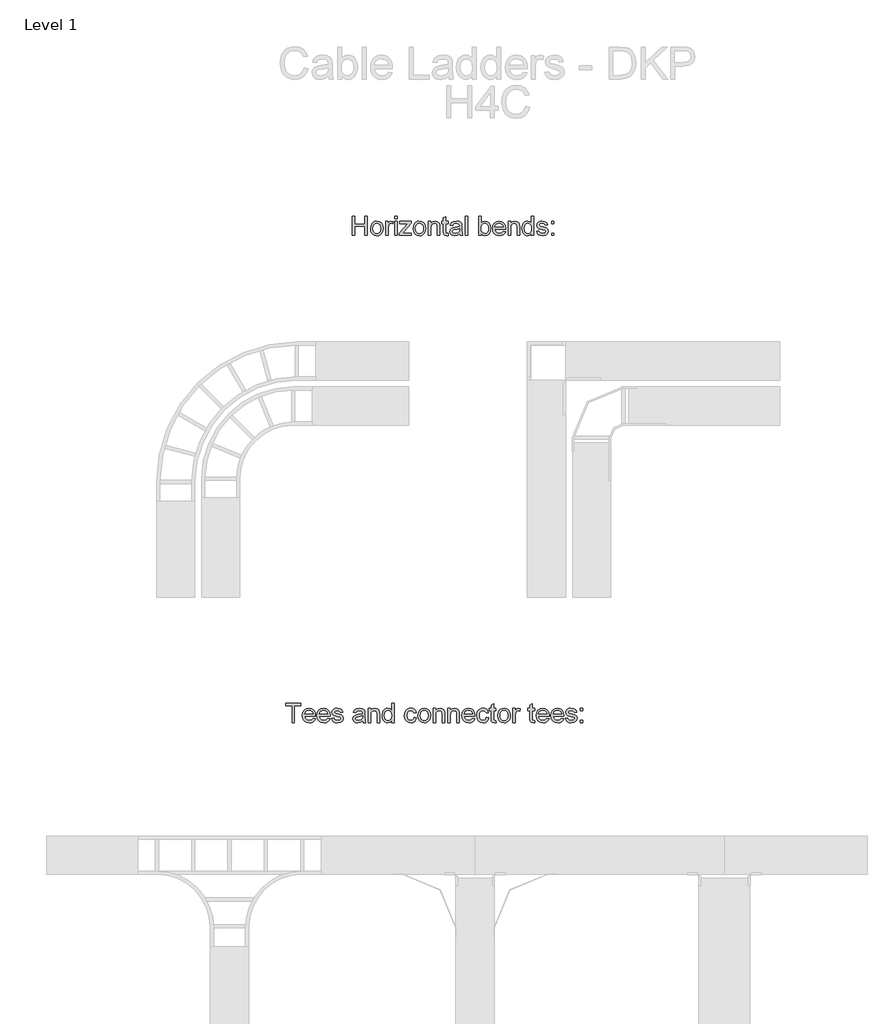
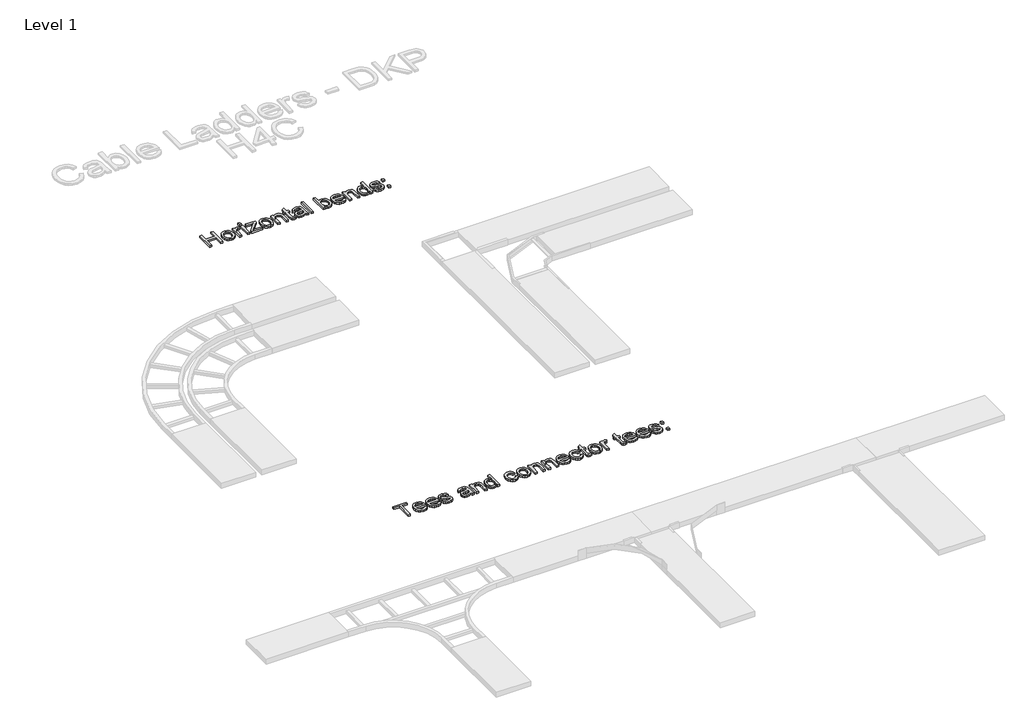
# One storey, part 84 of 106: 2 proxies.
"""IFC4 building model written with IfcOpenShell, lengths in millimetres."""

import ifcopenshell
import ifcopenshell.guid

model = None  # the IFC model being written
_history = None  # IfcOwnerHistory: only IFC2X3 demands one
_inside = {}  # id of a spatial element -> (the spatial element, [elements in it])
_under = {}  # id of a project, library or spatial element -> (it, [spatial elements below it])
_declared = {}  # id of a project -> (the project, [libraries it declares])
_typed = {}  # id of a type object -> (the type object, [elements of that type])
_made_of = {}  # id of a material, layer set ... -> (it, [elements and type objects made of it])


def new_model(schema):
    """Start an empty IFC model of exactly this schema.

    Asked for "IFC4X3", IfcOpenShell would pick the latest addendum, in which some entities
    have other attributes; the version numbers below select the first issue.
    IFC2X3 requires an IfcOwnerHistory on every rooted entity: one is made here for all.
    """
    global model, _history
    if schema == "IFC4X3":
        model = ifcopenshell.file(schema_version=(4, 3, 0, 0))
    else:
        model = ifcopenshell.file(schema=schema)
    _inside.clear()
    _under.clear()
    _declared.clear()
    _typed.clear()
    _made_of.clear()
    _history = None
    if model.schema == "IFC2X3":
        org = make("IfcOrganization", Name="unknown")
        user = make(
            "IfcPersonAndOrganization",
            ThePerson=make("IfcPerson", FamilyName="unknown"),
            TheOrganization=org,
        )
        app = make(
            "IfcApplication",
            ApplicationDeveloper=org,
            Version="unknown",
            ApplicationFullName="unknown",
            ApplicationIdentifier="unknown",
        )
        _history = make(
            "IfcOwnerHistory",
            OwningUser=user,
            OwningApplication=app,
            ChangeAction="ADDED",
            CreationDate=0,
        )
    return model


def make(cls, **values):
    """One entity of the class cls with the attributes given. An attribute that is None is left unset."""
    return model.create_entity(
        cls, **{name: value for name, value in values.items() if value is not None}
    )


def rooted(cls, **values):
    """An entity with a GlobalId (a new one), such as an element, a storey or a relation."""
    return make(cls, GlobalId=ifcopenshell.guid.new(), OwnerHistory=_history, **values)


def si_unit(unit_type, name, prefix=None):
    """IfcSIUnit, for example si_unit("LENGTHUNIT", "METRE", prefix="MILLI")."""
    return make("IfcSIUnit", UnitType=unit_type, Prefix=prefix, Name=name)


def assignment(units):
    """IfcUnitAssignment: the units of a project."""
    return None if units is None else make("IfcUnitAssignment", Units=units)


def point(xyz):
    """IfcCartesianPoint."""
    return None if xyz is None else make("IfcCartesianPoint", Coordinates=xyz)


def direction(xyz):
    """IfcDirection."""
    return None if xyz is None else make("IfcDirection", DirectionRatios=xyz)


def frame(location, z_axis=None, x_axis=None):
    """IfcAxis2Placement3D, a coordinate frame: its origin and axes. An axis left out is left unset."""
    return make(
        "IfcAxis2Placement3D",
        Location=point(location),
        Axis=direction(z_axis),
        RefDirection=direction(x_axis),
    )


def origin():
    """The frame at (0, 0, 0) with its axes left unset."""
    return frame((0.0, 0.0, 0.0))


def origin_with_axes():
    """The frame at (0, 0, 0) with the z axis (0, 0, 1) and the x axis (1, 0, 0) written out."""
    return frame((0.0, 0.0, 0.0), z_axis=(0.0, 0.0, 1.0), x_axis=(1.0, 0.0, 0.0))


def place(relative_to, where):
    """IfcLocalPlacement: puts the frame where relative to a parent placement (None: the world)."""
    return make(
        "IfcLocalPlacement", PlacementRelTo=relative_to, RelativePlacement=where
    )


def context(
    kind, dimensions, precision=None, world=None, true_north=None, identifier=None
):
    """IfcGeometricRepresentationContext, for example the 3D "Model" context."""
    return make(
        "IfcGeometricRepresentationContext",
        ContextIdentifier=identifier,
        ContextType=kind,
        CoordinateSpaceDimension=dimensions,
        Precision=precision,
        WorldCoordinateSystem=world,
        TrueNorth=true_north,
    )


def project(units=None, contexts=None):
    """IfcProject with its units and contexts."""
    return rooted(
        "IfcProject",
        Name="project",
        RepresentationContexts=contexts,
        UnitsInContext=assignment(units),
    )


def spatial(cls, under=None, at=None, **own):
    """A site, building, storey or space (cls), placed at a placement, below another one or the project."""
    s = rooted(cls, ObjectPlacement=at, **own)
    if under is not None:
        _under.setdefault(under.id(), (under, []))[1].append(s)
    return s


def polyline(points):
    """IfcPolyline through the points."""
    return make("IfcPolyline", Points=[point(p) for p in points])


def outline(outer, holes=None, kind="AREA"):
    """IfcArbitraryClosedProfileDef: a profile drawn as a closed curve; with holes, ...WithVoids."""
    if holes is None:
        return make("IfcArbitraryClosedProfileDef", ProfileType=kind, OuterCurve=outer)
    return make(
        "IfcArbitraryProfileDefWithVoids",
        ProfileType=kind,
        OuterCurve=outer,
        InnerCurves=holes,
    )


def extrude(swept, where, along, depth):
    """IfcExtrudedAreaSolid: the profile swept, set in the frame where, extruded along a direction by depth."""
    return make(
        "IfcExtrudedAreaSolid",
        SweptArea=swept,
        Position=where,
        ExtrudedDirection=direction(along),
        Depth=depth,
    )


def shape(context_of_items, identifier, shape_type, items):
    """IfcShapeRepresentation: the items that make up one representation, for example the "Body"."""
    return make(
        "IfcShapeRepresentation",
        ContextOfItems=context_of_items,
        RepresentationIdentifier=identifier,
        RepresentationType=shape_type,
        Items=items,
    )


def made_of(thing, what):
    """Note that an element or type object is made of a material, layer set ...; save() writes the relation."""
    if what is not None:
        _made_of.setdefault(what.id(), (what, []))[1].append(thing)
    return thing


def element(
    cls,
    number,
    at=None,
    inside=None,
    cuts=None,
    type_object=None,
    material=None,
    context=None,
    identifier="Body",
    shape_type=None,
    held_by="IfcProductDefinitionShape",
    body=None,
    shapes=None,
    **own,
):
    """One element of the class cls, such as IfcWall. Its Tag is "e" and its number.

    at: its placement. inside: the storey or other place that contains it. cuts: it is an
    opening in that element (IfcRelVoidsElement). A single representation is given by context,
    identifier, shape_type and body (its items); several are given by shapes. held_by: the class
    of the entity that holds the representations. save() writes the other relations.
    """
    e = rooted(cls, Tag="e%d" % number, ObjectPlacement=at, **own)
    if body is not None:
        shapes = [shape(context, identifier, shape_type, body)]
    if shapes is not None:
        e.Representation = make(held_by, Representations=shapes)
    if inside is not None:
        _inside.setdefault(inside.id(), (inside, []))[1].append(e)
    if cuts is not None:
        rooted(
            "IfcRelVoidsElement", RelatingBuildingElement=cuts, RelatedOpeningElement=e
        )
    if type_object is not None:
        _typed.setdefault(type_object.id(), (type_object, []))[1].append(e)
    return made_of(e, material)


def aggregate(whole, parts):
    """IfcRelAggregates: a whole, such as a stair, and the parts it consists of."""
    return rooted("IfcRelAggregates", RelatingObject=whole, RelatedObjects=parts)


def save(model, path):
    """Write the relations noted so far, then the file.

    IfcRelAggregates (storeys below a building ...), IfcRelContainedInSpatialStructure (elements
    in a storey), IfcRelDefinesByType, IfcRelAssociatesMaterial and IfcRelDeclares: one each for
    every whole, place, type object, material and project.
    """
    for whole, parts in _under.values():
        aggregate(whole, parts)
    for where, things in _inside.values():
        rooted(
            "IfcRelContainedInSpatialStructure",
            RelatedElements=things,
            RelatingStructure=where,
        )
    for kind, things in _typed.values():
        rooted("IfcRelDefinesByType", RelatedObjects=things, RelatingType=kind)
    for what, things in _made_of.values():
        rooted("IfcRelAssociatesMaterial", RelatedObjects=things, RelatingMaterial=what)
    for by, libraries in _declared.values():
        rooted("IfcRelDeclares", RelatingContext=by, RelatedDefinitions=libraries)
    model.write(path)


model = new_model("IFC4")

# Units and contexts
model_context = context("Model", 3, world=origin())
ifc_project = project(units=[si_unit("LENGTHUNIT", "METRE", prefix="MILLI")], contexts=[model_context])

# Site, building, storey
site = spatial("IfcSite", under=ifc_project)
building = spatial("IfcBuilding", under=site)
storey = spatial("IfcBuildingStorey", under=building, Name="Level 1", Elevation=0.0)

# Proxies
placement = place(None, origin())
element("IfcBuildingElementProxy", 1, Name="150mm Arial 2", ObjectType="150mm Arial 2", at=placement, inside=storey, context=model_context, shape_type="SweptSolid", body=[
    extrude(outline(polyline([(55165.8833156, 70274.2713912), (55165.8833156, 70424.9558564), (55184.7188737, 70424.9558564), (55184.7188737, 70363.7402924), (55264.7699959, 70363.7402924), (55264.7699959, 70424.9558564), (55283.605554, 70424.9558564), (55283.605554, 70274.2713912), (55264.7699959, 70274.2713912), (55264.7699959, 70344.9047343), (55184.7188737, 70344.9047343), (55184.7188737, 70274.2713912), (55165.8833156, 70274.2713912)])), origin_with_axes(), (0.0, 0.0, 1.0), 15.0),
    extrude(outline(polyline([(55309.5044465, 70329.6008433), (55313.5787396, 70356.281485), (55325.8016189, 70375.0342697), (55340.9031748, 70384.2221225), (55358.9845748, 70387.2847401), (55378.7720277, 70383.5553364), (55394.5771579, 70372.3671252), (55404.9376346, 70354.6030234), (55408.3911268, 70331.1459476), (55406.8644165, 70312.1172514), (55402.2842857, 70297.6318979), (55394.7840915, 70286.7839775), (55384.4971912, 70278.667581), (55372.2789104, 70273.6046051), (55358.9845748, 70271.9169464), (55338.9579987, 70275.6325546), (55323.1712626, 70286.779379), (55312.9211505, 70304.9159614), (55309.5044465, 70329.6008433)]), holes=[polyline([(55328.3400046, 70329.6376315), (55330.5197055, 70312.5908995), (55337.0588079, 70300.4461951), (55346.8996513, 70293.1759272), (55358.9845748, 70290.7525046), (55371.0143161, 70293.1897228), (55380.8367654, 70300.5013774), (55387.3758678, 70312.8070302), (55389.5555686, 70330.2262427), (55387.3620722, 70346.7763339), (55380.7815831, 70358.7554914), (55370.9453382, 70366.0257593), (55358.9845748, 70368.449182), (55346.8996513, 70366.0349564), (55337.0588079, 70358.7922796), (55330.5197055, 70346.6751664), (55328.3400046, 70329.6376315)])]), origin_with_axes(), (0.0, 0.0, 1.0), 15.0),
    extrude(outline(polyline([(55429.5811297, 70274.2713912), (55429.5811297, 70384.9302953), (55446.0622431, 70384.9302953), (55446.0622431, 70368.5595466), (55457.7608906, 70383.6427084), (55469.5331144, 70387.2847401), (55488.4422489, 70381.4722046), (55482.1514668, 70364.586421), (55468.907715, 70368.449182), (55458.2575312, 70364.7335738), (55451.4701084, 70354.4328779), (55448.4166879, 70332.4335346), (55448.4166879, 70274.2713912), (55429.5811297, 70274.2713912)])), origin_with_axes(), (0.0, 0.0, 1.0), 15.0),
    extrude(outline(polyline([(55500.2144728, 70406.1202983), (55500.2144728, 70424.9558564), (55519.0500309, 70424.9558564), (55519.0500309, 70406.1202983), (55500.2144728, 70406.1202983)])), origin_with_axes(), (0.0, 0.0, 1.0), 15.0),
    extrude(outline(polyline([(55500.2144728, 70274.2713912), (55500.2144728, 70384.9302953), (55519.0500309, 70384.9302953), (55519.0500309, 70274.2713912), (55500.2144728, 70274.2713912)])), origin_with_axes(), (0.0, 0.0, 1.0), 15.0),
    extrude(outline(polyline([(55535.5311443, 70274.2713912), (55535.5311443, 70292.0033034), (55600.5358929, 70366.0947372), (55581.2956645, 70366.0947372), (55540.2400339, 70366.0947372), (55540.2400339, 70384.9302953), (55627.3544903, 70384.9302953), (55627.3544903, 70368.9274285), (55569.7073817, 70303.186916), (55560.8782138, 70293.1069493), (55582.6568279, 70293.1069493), (55629.7089351, 70293.1069493), (55629.7089351, 70274.2713912), (55535.5311443, 70274.2713912)])), origin_with_axes(), (0.0, 0.0, 1.0), 15.0),
    extrude(outline(polyline([(55643.8356037, 70329.6008433), (55647.9098968, 70356.281485), (55660.1327761, 70375.0342697), (55675.234332, 70384.2221225), (55693.3157321, 70387.2847401), (55713.1031849, 70383.5553364), (55728.9083151, 70372.3671252), (55739.2687918, 70354.6030234), (55742.722284, 70331.1459476), (55741.1955737, 70312.1172514), (55736.6154429, 70297.6318979), (55729.1152487, 70286.7839775), (55718.8283484, 70278.667581), (55706.6100677, 70273.6046051), (55693.3157321, 70271.9169464), (55673.2891559, 70275.6325546), (55657.5024198, 70286.779379), (55647.2523077, 70304.9159614), (55643.8356037, 70329.6008433)]), holes=[polyline([(55662.6711619, 70329.6376315), (55664.8508627, 70312.5908995), (55671.3899651, 70300.4461951), (55681.2308085, 70293.1759272), (55693.3157321, 70290.7525046), (55705.3454733, 70293.1897228), (55715.1679226, 70300.5013774), (55721.707025, 70312.8070302), (55723.8867259, 70330.2262427), (55721.6932295, 70346.7763339), (55715.1127403, 70358.7554914), (55705.2764954, 70366.0257593), (55693.3157321, 70368.449182), (55681.2308085, 70366.0349564), (55671.3899651, 70358.7922796), (55664.8508627, 70346.6751664), (55662.6711619, 70329.6376315)])]), origin_with_axes(), (0.0, 0.0, 1.0), 15.0),
    extrude(outline(polyline([(55763.9122869, 70274.2713912), (55763.9122869, 70384.9302953), (55782.7478451, 70384.9302953), (55782.7478451, 70369.4792515), (55797.1504252, 70382.833368), (55816.8137178, 70387.2847401), (55834.6008123, 70383.6978907), (55846.7409182, 70374.2801116), (55852.3879068, 70360.4293545), (55853.3811882, 70342.2191957), (55853.3811882, 70274.2713912), (55834.54563, 70274.2713912), (55834.54563, 70339.6808099), (55832.3751262, 70356.3458643), (55824.7047866, 70365.1566381), (55811.7737345, 70368.449182), (55800.7418732, 70366.6005749), (55791.3378897, 70361.0547538), (55784.8953562, 70350.3401907), (55782.7478451, 70332.9853576), (55782.7478451, 70274.2713912), (55763.9122869, 70274.2713912)])), origin_with_axes(), (0.0, 0.0, 1.0), 15.0),
    extrude(outline(polyline([(55919.3056417, 70289.9799524), (55921.6600865, 70273.7195682), (55907.5702061, 70271.9169464), (55891.7880685, 70275.0439434), (55883.9153938, 70283.2477119), (55881.6345254, 70304.6216558), (55881.6345254, 70366.0947372), (55867.5078568, 70366.0947372), (55867.5078568, 70384.9302953), (55881.6345254, 70384.9302953), (55881.6345254, 70411.8224692), (55900.4700835, 70422.8957172), (55900.4700835, 70384.9302953), (55919.3056417, 70384.9302953), (55919.3056417, 70366.0947372), (55900.4700835, 70366.0947372), (55900.4700835, 70305.1734788), (55901.4633649, 70295.4613941), (55904.6823324, 70292.0216975), (55911.1018732, 70290.7525046), (55919.3056417, 70289.9799524)])), origin_with_axes(), (0.0, 0.0, 1.0), 15.0),
    extrude(outline(polyline([(56008.7745429, 70288.3980598), (55990.5092019, 70275.6325546), (55970.3308744, 70271.9169464), (55954.5901236, 70274.1518295), (55942.9788481, 70280.8564789), (55935.8189448, 70291.0376131), (55933.4323103, 70303.7019508), (55937.0375539, 70318.6011716), (55946.5105152, 70329.4169023), (55959.6990848, 70335.5973198), (55975.9962572, 70338.4300111), (56008.6641783, 70344.9047343), (56008.7745429, 70349.098589), (56007.4777589, 70357.5046926), (56003.5874068, 70363.0045284), (55994.8869976, 70367.0880186), (55982.7652859, 70368.449182), (55963.7089985, 70364.8255443), (55954.6223132, 70351.9680686), (55935.7867551, 70354.3225133), (55943.9353413, 70372.7166131), (55960.3428783, 70383.4955556), (55985.193307, 70387.2847401), (56008.0203848, 70383.9370139), (56020.9146488, 70375.5309104), (56026.6903961, 70362.747011), (56027.6101011, 70346.2658976), (56027.6101011, 70322.8318145), (56028.5665943, 70290.1087111), (56032.3189906, 70274.2713912), (56013.4834325, 70274.2713912), (56008.7745429, 70288.3980598)]), holes=[polyline([(56008.7745429, 70326.0691761), (55978.3874901, 70320.2934288), (55962.1822882, 70317.2400082), (55954.8430424, 70312.2736013), (55952.2678685, 70305.026326), (55957.8780689, 70294.8359947), (55974.3407882, 70290.7525046), (55993.3970755, 70295.259059), (56005.6843342, 70306.1667602), (56008.6641783, 70320.7348872), (56008.7745429, 70326.0691761)])]), origin_with_axes(), (0.0, 0.0, 1.0), 15.0),
    extrude(outline(polyline([(56053.5089935, 70274.2713912), (56053.5089935, 70424.9558564), (56072.3445517, 70424.9558564), (56072.3445517, 70274.2713912), (56053.5089935, 70274.2713912)])), origin_with_axes(), (0.0, 0.0, 1.0), 15.0),
    extrude(outline(polyline([(56178.2945663, 70274.2713912), (56159.4590082, 70274.2713912), (56159.4590082, 70424.9558564), (56178.2945663, 70424.9558564), (56178.2945663, 70369.0745813), (56191.4831358, 70382.7322004), (56207.8722787, 70387.2847401), (56226.7446251, 70383.1828559), (56241.3863285, 70371.6497553), (56250.3810433, 70353.715508), (56253.6367989, 70331.2563122), (56250.2660801, 70306.1115779), (56240.1539238, 70287.4047784), (56225.3144838, 70275.7889044), (56207.7619141, 70271.9169464), (56191.0140863, 70276.9109445), (56178.2945663, 70291.8929388), (56178.2945663, 70274.2713912)]), holes=[polyline([(56178.2945663, 70330.3733955), (56179.5821533, 70314.6648343), (56183.4449142, 70304.0330446), (56193.3133488, 70294.0726396), (56206.1432333, 70290.7525046), (56217.0141463, 70293.1989198), (56226.3031667, 70300.5381656), (56232.6767222, 70312.7242567), (56234.8012408, 70329.7112079), (56232.7640942, 70346.9464793), (56226.6526546, 70358.9946147), (56217.6533413, 70366.0855401), (56206.9525737, 70368.449182), (56196.0816608, 70366.0027667), (56186.7926404, 70358.6635209), (56180.4190848, 70346.698159), (56178.2945663, 70330.3733955)])]), origin_with_axes(), (0.0, 0.0, 1.0), 15.0),
    extrude(outline(polyline([(56352.30275, 70307.233618), (56370.7704262, 70304.8791732), (56364.1163606, 70290.9640367), (56353.4983665, 70280.5621733), (56339.1555672, 70274.0782531), (56321.327086, 70271.9169464), (56299.2265752, 70275.6463501), (56282.2212299, 70286.8345613), (56271.3779081, 70304.755013), (56267.7634675, 70328.6811383), (56271.4146963, 70353.4120054), (56282.3683827, 70371.9072727), (56299.1438017, 70383.4403733), (56320.2602282, 70387.2847401), (56340.7190657, 70383.4495703), (56357.0668219, 70371.9440609), (56367.7859835, 70353.4855818), (56371.3590374, 70328.7915029), (56371.2486728, 70323.7147313), (56286.5990257, 70323.7147313), (56289.8593799, 70309.6156539), (56297.4331504, 70299.2505787), (56308.3638442, 70292.8770231), (56321.694968, 70290.7525046), (56340.1626442, 70294.6888419), (56352.30275, 70307.233618)]), holes=[polyline([(56286.5990257, 70342.5502895), (56352.5234792, 70342.5502895), (56349.9758964, 70352.5014975), (56344.9818983, 70359.6200141), (56334.0006208, 70366.24189), (56320.1866518, 70368.449182), (56307.4901245, 70366.6879469), (56296.991692, 70361.4042417), (56289.693833, 70353.1682836), (56286.5990257, 70342.5502895)])]), origin_with_axes(), (0.0, 0.0, 1.0), 15.0),
    extrude(outline(polyline([(56390.1945955, 70274.2713912), (56390.1945955, 70384.9302953), (56409.0301537, 70384.9302953), (56409.0301537, 70369.4792515), (56423.4327338, 70382.833368), (56443.0960264, 70387.2847401), (56460.8831209, 70383.6978907), (56473.0232267, 70374.2801116), (56478.6702154, 70360.4293545), (56479.6634968, 70342.2191957), (56479.6634968, 70274.2713912), (56460.8279386, 70274.2713912), (56460.8279386, 70339.6808099), (56458.6574348, 70356.3458643), (56450.9870952, 70365.1566381), (56438.0560431, 70368.449182), (56427.0241818, 70366.6005749), (56417.6201983, 70361.0547538), (56411.1776648, 70350.3401907), (56409.0301537, 70332.9853576), (56409.0301537, 70274.2713912), (56390.1945955, 70274.2713912)])), origin_with_axes(), (0.0, 0.0, 1.0), 15.0),
    extrude(outline(polyline([(56573.8412875, 70274.2713912), (56573.8412875, 70292.0400916), (56561.3792849, 70276.9477327), (56544.1532105, 70271.9169464), (56531.9763165, 70273.7379623), (56520.829492, 70279.2010099), (56511.3933188, 70287.9244117), (56504.3483786, 70299.5264902), (56499.9613858, 70313.5381956), (56498.4990549, 70329.4904787), (56503.8885261, 70359.4728613), (56510.6207666, 70371.3646468), (56520.0385457, 70380.1110412), (56531.429092, 70385.4913154), (56544.0796341, 70387.2847401), (56561.4436643, 70382.1527863), (56573.8412875, 70368.8170639), (56573.8412875, 70424.9558564), (56592.6768457, 70424.9558564), (56592.6768457, 70274.2713912), (56573.8412875, 70274.2713912)]), holes=[polyline([(56517.3346131, 70329.5640551), (56519.4591316, 70312.5265202), (56525.8326871, 70300.4094069), (56535.0941164, 70293.1667302), (56545.8822559, 70290.7525046), (56556.6657969, 70293.0563656), (56565.6927013, 70299.9679485), (56571.804141, 70311.6160122), (56573.8412875, 70328.1293153), (56571.7673528, 70346.1831242), (56565.5455485, 70358.7003091), (56556.2887178, 70366.0119637), (56545.1097037, 70368.449182), (56534.2111996, 70366.1085328), (56525.2808642, 70359.0865852), (56519.3211758, 70347.0246543), (56517.3346131, 70329.5640551)])]), origin_with_axes(), (0.0, 0.0, 1.0), 15.0),
    extrude(outline(polyline([(56613.8668486, 70307.233618), (56632.7024067, 70309.5880627), (56635.6730539, 70301.531447), (56641.42121, 70295.6085469), (56661.3972024, 70290.7525046), (56680.6006425, 70295.2038767), (56686.8546364, 70305.6517254), (56685.2819409, 70310.4525854), (56680.5638543, 70314.1130113), (56661.1764732, 70319.4840884), (56632.8127713, 70328.6995324), (56620.4335422, 70339.4600807), (56616.2212934, 70354.6536071), (56619.6058077, 70368.6883052), (56628.8396458, 70379.4120654), (56640.8142047, 70384.9854776), (56657.0194066, 70387.2847401), (56679.9384549, 70383.5875261), (56694.5065819, 70373.5811358), (56700.9813051, 70356.6769581), (56682.1457469, 70354.3225133), (56675.0640185, 70364.7151797), (56658.4909346, 70368.449182), (56640.4647168, 70364.8807266), (56635.0568515, 70356.5665935), (56637.3009317, 70351.0851518), (56644.3274778, 70346.9280852), (56660.5510738, 70342.9181715), (56688.1974057, 70334.0522154), (56701.0364873, 70324.0090369), (56705.6901946, 70307.6382881), (56700.227147, 70289.6120704), (56684.4634035, 70276.5338655), (56661.139685, 70271.9169464), (56642.147777, 70274.1426325), (56628.2878228, 70280.8196907), (56619.0355906, 70291.8745447), (56613.8668486, 70307.233618)])), origin_with_axes(), (0.0, 0.0, 1.0), 15.0),
    extrude(outline(polyline([(56731.589087, 70366.0947372), (56731.589087, 70384.9302953), (56750.4246452, 70384.9302953), (56750.4246452, 70366.0947372), (56731.589087, 70366.0947372)])), origin_with_axes(), (0.0, 0.0, 1.0), 15.0),
    extrude(outline(polyline([(56731.589087, 70274.2713912), (56731.589087, 70293.1069493), (56750.4246452, 70293.1069493), (56750.4246452, 70274.2713912), (56731.589087, 70274.2713912)])), origin_with_axes(), (0.0, 0.0, 1.0), 15.0),
])
element("IfcBuildingElementProxy", 2, Name="150mm Arial 2", ObjectType="150mm Arial 2", at=placement, inside=storey, context=model_context, shape_type="SweptSolid", body=[
    extrude(outline(polyline([(54693.3276619, 66447.8476348), (54693.3276619, 66579.6965419), (54643.8843218, 66579.6965419), (54643.8843218, 66598.5321), (54761.6065602, 66598.5321), (54761.6065602, 66579.6965419), (54712.1632201, 66579.6965419), (54712.1632201, 66447.8476348), (54693.3276619, 66447.8476348)])), origin_with_axes(), (0.0, 0.0, 1.0), 15.0),
    extrude(outline(polyline([(54857.9180666, 66480.8098615), (54876.3857427, 66478.4554168), (54869.7316771, 66464.5402803), (54859.1136831, 66454.1384169), (54844.7708838, 66447.6544967), (54826.9424026, 66445.49319), (54804.8418917, 66449.2225937), (54787.8365465, 66460.4108049), (54776.9932247, 66478.3312566), (54773.3787841, 66502.2573819), (54777.0300129, 66526.988249), (54787.9836993, 66545.4835163), (54804.7591183, 66557.0166168), (54825.8755448, 66560.8609837), (54846.3343822, 66557.0258139), (54862.6821384, 66545.5203045), (54873.4013, 66527.0618254), (54876.9743539, 66502.3677465), (54876.8639893, 66497.2909749), (54792.2143422, 66497.2909749), (54795.4746964, 66483.1918975), (54803.048467, 66472.8268223), (54813.9791608, 66466.4532667), (54827.3102846, 66464.3287482), (54845.7779607, 66468.2650855), (54857.9180666, 66480.8098615)]), holes=[polyline([(54792.2143422, 66516.1265331), (54858.1387958, 66516.1265331), (54855.5912129, 66526.0777411), (54850.5972149, 66533.1962577), (54839.6159373, 66539.8181336), (54825.8019684, 66542.0254255), (54813.105441, 66540.2641905), (54802.6070086, 66534.9804853), (54795.3091495, 66526.7445272), (54792.2143422, 66516.1265331)])]), origin_with_axes(), (0.0, 0.0, 1.0), 15.0),
    extrude(outline(polyline([(54973.2858603, 66480.8098615), (54991.7535364, 66478.4554168), (54985.0994708, 66464.5402803), (54974.4814767, 66454.1384169), (54960.1386775, 66447.6544967), (54942.3101963, 66445.49319), (54920.2096854, 66449.2225937), (54903.2043402, 66460.4108049), (54892.3610184, 66478.3312566), (54888.7465778, 66502.2573819), (54892.3978066, 66526.988249), (54903.351493, 66545.4835163), (54920.126912, 66557.0166168), (54941.2433385, 66560.8609837), (54961.7021759, 66557.0258139), (54978.0499321, 66545.5203045), (54988.7690937, 66527.0618254), (54992.3421476, 66502.3677465), (54992.231783, 66497.2909749), (54907.5821359, 66497.2909749), (54910.8424901, 66483.1918975), (54918.4162607, 66472.8268223), (54929.3469545, 66466.4532667), (54942.6780783, 66464.3287482), (54961.1457544, 66468.2650855), (54973.2858603, 66480.8098615)]), holes=[polyline([(54907.5821359, 66516.1265331), (54973.5065895, 66516.1265331), (54970.9590066, 66526.0777411), (54965.9650086, 66533.1962577), (54954.983731, 66539.8181336), (54941.1697621, 66542.0254255), (54928.4732347, 66540.2641905), (54917.9748023, 66534.9804853), (54910.6769432, 66526.7445272), (54907.5821359, 66516.1265331)])]), origin_with_axes(), (0.0, 0.0, 1.0), 15.0),
    extrude(outline(polyline([(55004.1143715, 66480.8098615), (55022.9499296, 66483.1643063), (55025.9205767, 66475.1076906), (55031.6687329, 66469.1847905), (55051.6447252, 66464.3287482), (55070.8481654, 66468.7801203), (55077.1021593, 66479.227969), (55075.5294638, 66484.028829), (55070.8113772, 66487.6892549), (55051.423996, 66493.060332), (55023.0602942, 66502.275776), (55010.6810651, 66513.0363243), (55006.4688162, 66528.2298507), (55009.8533306, 66542.2645488), (55019.0871687, 66552.988309), (55031.0617276, 66558.5617212), (55047.2669295, 66560.8609837), (55070.1859778, 66557.1637696), (55084.7541048, 66547.1573794), (55091.2288279, 66530.2532017), (55072.3932698, 66527.8987569), (55065.3115413, 66538.2914233), (55048.7384575, 66542.0254255), (55030.7122397, 66538.4569702), (55025.3043744, 66530.1428371), (55027.5484545, 66524.6613954), (55034.5750007, 66520.5043288), (55050.7985966, 66516.4944151), (55078.4449286, 66507.628459), (55091.2840102, 66497.5852805), (55095.9377174, 66481.2145317), (55090.4746698, 66463.188314), (55074.7109263, 66450.1101091), (55051.3872078, 66445.49319), (55032.3952998, 66447.7188761), (55018.5353457, 66454.3959343), (55009.2831135, 66465.4507882), (55004.1143715, 66480.8098615)])), origin_with_axes(), (0.0, 0.0, 1.0), 15.0),
    extrude(outline(polyline([(55246.6221827, 66461.9743034), (55228.3568416, 66449.2087982), (55208.1785142, 66445.49319), (55192.4377633, 66447.7280731), (55180.8264878, 66454.4327225), (55173.6665845, 66464.6138567), (55171.2799501, 66477.2781944), (55174.8851936, 66492.1774152), (55184.358155, 66502.9931459), (55197.5467245, 66509.1735634), (55213.8438969, 66512.0062547), (55246.5118181, 66518.4809779), (55246.6221827, 66522.6748326), (55245.3253986, 66531.0809362), (55241.4350465, 66536.580772), (55232.7346374, 66540.6642622), (55220.6129256, 66542.0254255), (55201.5566383, 66538.4017879), (55192.469953, 66525.5443122), (55173.6343948, 66527.8987569), (55181.782981, 66546.2928567), (55198.190518, 66557.0717991), (55223.0409468, 66560.8609837), (55245.8680246, 66557.5132575), (55258.7622885, 66549.107154), (55264.5380358, 66536.3232546), (55265.4577408, 66519.8421412), (55265.4577408, 66496.4080581), (55266.414234, 66463.6849547), (55270.1666304, 66447.8476348), (55251.3310722, 66447.8476348), (55246.6221827, 66461.9743034)]), holes=[polyline([(55246.6221827, 66499.6454197), (55216.2351299, 66493.8696724), (55200.029928, 66490.8162518), (55192.6906822, 66485.8498449), (55190.1155082, 66478.6025696), (55195.7257086, 66468.4122383), (55212.1884279, 66464.3287482), (55231.2447153, 66468.8353026), (55243.5319739, 66479.7430038), (55246.5118181, 66494.3111308), (55246.6221827, 66499.6454197)])]), origin_with_axes(), (0.0, 0.0, 1.0), 15.0),
    extrude(outline(polyline([(55291.3566333, 66447.8476348), (55291.3566333, 66558.5065389), (55310.1921914, 66558.5065389), (55310.1921914, 66543.0554951), (55324.5947715, 66556.4096116), (55344.2580642, 66560.8609837), (55362.0451587, 66557.2741342), (55374.1852645, 66547.8563552), (55379.8322531, 66534.0055981), (55380.8255345, 66515.7954393), (55380.8255345, 66447.8476348), (55361.9899764, 66447.8476348), (55361.9899764, 66513.2570535), (55359.8194726, 66529.9221079), (55352.149133, 66538.7328817), (55339.2180809, 66542.0254255), (55328.1862195, 66540.1768185), (55318.782236, 66534.6309974), (55312.3397026, 66523.9164343), (55310.1921914, 66506.5616012), (55310.1921914, 66447.8476348), (55291.3566333, 66447.8476348)])), origin_with_axes(), (0.0, 0.0, 1.0), 15.0),
    extrude(outline(polyline([(55475.0033253, 66447.8476348), (55475.0033253, 66465.6163351), (55462.5413227, 66450.5239763), (55445.3152483, 66445.49319), (55433.1383542, 66447.3142059), (55421.9915298, 66452.7772535), (55412.5553566, 66461.5006553), (55405.5104164, 66473.1027337), (55401.1234236, 66487.1144392), (55399.6610927, 66503.0667223), (55405.0505639, 66533.0491049), (55411.7828044, 66544.9408904), (55421.2005835, 66553.6872848), (55432.5911298, 66559.067559), (55445.2416719, 66560.8609837), (55462.605702, 66555.7290299), (55475.0033253, 66542.3933075), (55475.0033253, 66598.5321), (55493.8388834, 66598.5321), (55493.8388834, 66447.8476348), (55475.0033253, 66447.8476348)]), holes=[polyline([(55418.4966508, 66503.1402987), (55420.6211693, 66486.1027638), (55426.9947249, 66473.9856505), (55436.2561541, 66466.7429738), (55447.0442936, 66464.3287482), (55457.8278346, 66466.6326092), (55466.8547391, 66473.5441921), (55472.9661787, 66485.1922558), (55475.0033253, 66501.7055589), (55472.9293905, 66519.7593678), (55466.7075863, 66532.2765527), (55457.4507556, 66539.5882073), (55446.2717415, 66542.0254255), (55435.3732373, 66539.6847764), (55426.4429019, 66532.6628288), (55420.4832136, 66520.6008979), (55418.4966508, 66503.1402987)])]), origin_with_axes(), (0.0, 0.0, 1.0), 15.0),
    extrude(outline(polyline([(55651.586683, 66487.8731959), (55670.4222411, 66485.5187511), (55665.1707256, 66468.7663247), (55655.3022911, 66456.1065856), (55641.7458396, 66448.1465389), (55625.4302731, 66445.49319), (55605.3944999, 66449.1950026), (55589.7273255, 66460.3004403), (55579.6151691, 66478.3220596), (55576.2444503, 66502.7724167), (55577.6837887, 66519.5340401), (55582.0018036, 66534.0607803), (55589.267473, 66545.7916175), (55599.5497747, 66554.1655314), (55611.850829, 66559.1871206), (55625.1727557, 66560.8609837), (55641.0882505, 66558.5617212), (55653.812369, 66551.6639338), (55662.940441, 66540.5355035), (55668.0677963, 66525.5443122), (55649.2322382, 66523.1898674), (55640.4950408, 66537.2981419), (55625.3199085, 66542.0254255), (55613.147613, 66539.6985719), (55603.4861121, 66532.7180111), (55597.1815344, 66520.7066639), (55595.0800085, 66503.2874515), (55597.1355492, 66485.6337142), (55603.3021711, 66473.5809803), (55612.788928, 66466.6418062), (55624.8048737, 66464.3287482), (55634.5583451, 66465.772685), (55642.55518, 66470.1044955), (55648.372314, 66477.4345442), (55651.586683, 66487.8731959)])), origin_with_axes(), (0.0, 0.0, 1.0), 15.0),
    extrude(outline(polyline([(55682.194465, 66503.1770869), (55686.2687581, 66529.8577286), (55698.4916373, 66548.6105133), (55713.5931932, 66557.7983661), (55731.6745933, 66560.8609837), (55751.4620461, 66557.13158), (55767.2671763, 66545.9433688), (55777.627653, 66528.179267), (55781.0811453, 66504.7221912), (55779.554435, 66485.693495), (55774.9743041, 66471.2081415), (55767.47411, 66460.3602211), (55757.1872097, 66452.2438246), (55744.9689289, 66447.1808487), (55731.6745933, 66445.49319), (55711.6480172, 66449.2087982), (55695.8612811, 66460.3556226), (55685.611169, 66478.492205), (55682.194465, 66503.1770869)]), holes=[polyline([(55701.0300231, 66503.2138751), (55703.2097239, 66486.1671431), (55709.7488264, 66474.0224387), (55719.5896698, 66466.7521708), (55731.6745933, 66464.3287482), (55743.7043346, 66466.7659664), (55753.5267838, 66474.077621), (55760.0658863, 66486.3832738), (55762.2455871, 66503.8024862), (55760.0520907, 66520.3525775), (55753.4716015, 66532.331735), (55743.6353567, 66539.6020029), (55731.6745933, 66542.0254255), (55719.5896698, 66539.6112), (55709.7488264, 66532.3685232), (55703.2097239, 66520.25141), (55701.0300231, 66503.2138751)])]), origin_with_axes(), (0.0, 0.0, 1.0), 15.0),
    extrude(outline(polyline([(55802.2711482, 66447.8476348), (55802.2711482, 66558.5065389), (55821.1067063, 66558.5065389), (55821.1067063, 66543.0554951), (55835.5092865, 66556.4096116), (55855.1725791, 66560.8609837), (55872.9596736, 66557.2741342), (55885.0997794, 66547.8563552), (55890.746768, 66534.0055981), (55891.7400494, 66515.7954393), (55891.7400494, 66447.8476348), (55872.9044913, 66447.8476348), (55872.9044913, 66513.2570535), (55870.7339875, 66529.9221079), (55863.0636479, 66538.7328817), (55850.1325958, 66542.0254255), (55839.1007344, 66540.1768185), (55829.6967509, 66534.6309974), (55823.2542175, 66523.9164343), (55821.1067063, 66506.5616012), (55821.1067063, 66447.8476348), (55802.2711482, 66447.8476348)])), origin_with_axes(), (0.0, 0.0, 1.0), 15.0),
    extrude(outline(polyline([(55917.6389419, 66447.8476348), (55917.6389419, 66558.5065389), (55936.4745, 66558.5065389), (55936.4745, 66543.0554951), (55950.8770801, 66556.4096116), (55970.5403728, 66560.8609837), (55988.3274672, 66557.2741342), (56000.4675731, 66547.8563552), (56006.1145617, 66534.0055981), (56007.1078431, 66515.7954393), (56007.1078431, 66447.8476348), (55988.2722849, 66447.8476348), (55988.2722849, 66513.2570535), (55986.1017812, 66529.9221079), (55978.4314416, 66538.7328817), (55965.5003894, 66542.0254255), (55954.4685281, 66540.1768185), (55945.0645446, 66534.6309974), (55938.6220112, 66523.9164343), (55936.4745, 66506.5616012), (55936.4745, 66447.8476348), (55917.6389419, 66447.8476348)])), origin_with_axes(), (0.0, 0.0, 1.0), 15.0),
    extrude(outline(polyline([(56110.4826837, 66480.8098615), (56128.9503599, 66478.4554168), (56122.2962943, 66464.5402803), (56111.6783002, 66454.1384169), (56097.3355009, 66447.6544967), (56079.5070198, 66445.49319), (56057.4065089, 66449.2225937), (56040.4011637, 66460.4108049), (56029.5578419, 66478.3312566), (56025.9434013, 66502.2573819), (56029.5946301, 66526.988249), (56040.5483165, 66545.4835163), (56057.3237354, 66557.0166168), (56078.440162, 66560.8609837), (56098.8989994, 66557.0258139), (56115.2467556, 66545.5203045), (56125.9659172, 66527.0618254), (56129.5389711, 66502.3677465), (56129.4286065, 66497.2909749), (56044.7789594, 66497.2909749), (56048.0393136, 66483.1918975), (56055.6130842, 66472.8268223), (56066.5437779, 66466.4532667), (56079.8749017, 66464.3287482), (56098.3425779, 66468.2650855), (56110.4826837, 66480.8098615)]), holes=[polyline([(56044.7789594, 66516.1265331), (56110.7034129, 66516.1265331), (56108.1558301, 66526.0777411), (56103.161832, 66533.1962577), (56092.1805545, 66539.8181336), (56078.3665856, 66542.0254255), (56065.6700582, 66540.2641905), (56055.1716258, 66534.9804853), (56047.8737667, 66526.7445272), (56044.7789594, 66516.1265331)])]), origin_with_axes(), (0.0, 0.0, 1.0), 15.0),
    extrude(outline(polyline([(56219.0078723, 66487.8731959), (56237.8434305, 66485.5187511), (56232.591915, 66468.7663247), (56222.7234805, 66456.1065856), (56209.167029, 66448.1465389), (56192.8514625, 66445.49319), (56172.8156893, 66449.1950026), (56157.1485148, 66460.3004403), (56147.0363585, 66478.3220596), (56143.6656397, 66502.7724167), (56145.104978, 66519.5340401), (56149.4229929, 66534.0607803), (56156.6886623, 66545.7916175), (56166.9709641, 66554.1655314), (56179.2720183, 66559.1871206), (56192.5939451, 66560.8609837), (56208.5094399, 66558.5617212), (56221.2335584, 66551.6639338), (56230.3616304, 66540.5355035), (56235.4889857, 66525.5443122), (56216.6534276, 66523.1898674), (56207.9162302, 66537.2981419), (56192.7410979, 66542.0254255), (56180.5688024, 66539.6985719), (56170.9073015, 66532.7180111), (56164.6027238, 66520.7066639), (56162.5011979, 66503.2874515), (56164.5567385, 66485.6337142), (56170.7233605, 66473.5809803), (56180.2101174, 66466.6418062), (56192.2260631, 66464.3287482), (56201.9795345, 66465.772685), (56209.9763693, 66470.1044955), (56215.7935034, 66477.4345442), (56219.0078723, 66487.8731959)])), origin_with_axes(), (0.0, 0.0, 1.0), 15.0),
    extrude(outline(polyline([(56294.3501049, 66463.556196), (56296.7045497, 66447.2958118), (56282.6146693, 66445.49319), (56266.8325317, 66448.620187), (56258.959857, 66456.8239555), (56256.6789886, 66478.1978994), (56256.6789886, 66539.6709808), (56242.55232, 66539.6709808), (56242.55232, 66558.5065389), (56256.6789886, 66558.5065389), (56256.6789886, 66585.3987128), (56275.5145468, 66596.4719608), (56275.5145468, 66558.5065389), (56294.3501049, 66558.5065389), (56294.3501049, 66539.6709808), (56275.5145468, 66539.6709808), (56275.5145468, 66478.7497224), (56276.5078282, 66469.0376377), (56279.7267956, 66465.597941), (56286.1463364, 66464.3287482), (56294.3501049, 66463.556196)])), origin_with_axes(), (0.0, 0.0, 1.0), 15.0),
    extrude(outline(polyline([(56308.4767735, 66503.1770869), (56312.5510666, 66529.8577286), (56324.7739459, 66548.6105133), (56339.8755018, 66557.7983661), (56357.9569019, 66560.8609837), (56377.7443547, 66557.13158), (56393.5494849, 66545.9433688), (56403.9099616, 66528.179267), (56407.3634539, 66504.7221912), (56405.8367436, 66485.693495), (56401.2566127, 66471.2081415), (56393.7564186, 66460.3602211), (56383.4695183, 66452.2438246), (56371.2512375, 66447.1808487), (56357.9569019, 66445.49319), (56337.9303258, 66449.2087982), (56322.1435897, 66460.3556226), (56311.8934776, 66478.492205), (56308.4767735, 66503.1770869)]), holes=[polyline([(56327.3123317, 66503.2138751), (56329.4920325, 66486.1671431), (56336.031135, 66474.0224387), (56345.8719784, 66466.7521708), (56357.9569019, 66464.3287482), (56369.9866431, 66466.7659664), (56379.8090924, 66474.077621), (56386.3481949, 66486.3832738), (56388.5278957, 66503.8024862), (56386.3343993, 66520.3525775), (56379.7539101, 66532.331735), (56369.9176653, 66539.6020029), (56357.9569019, 66542.0254255), (56345.8719784, 66539.6112), (56336.031135, 66532.3685232), (56329.4920325, 66520.25141), (56327.3123317, 66503.2138751)])]), origin_with_axes(), (0.0, 0.0, 1.0), 15.0),
    extrude(outline(polyline([(56428.5534568, 66447.8476348), (56428.5534568, 66558.5065389), (56445.0345702, 66558.5065389), (56445.0345702, 66542.1357901), (56456.7332176, 66557.2189519), (56468.5054415, 66560.8609837), (56487.414576, 66555.0484482), (56481.1237939, 66538.1626646), (56467.8800421, 66542.0254255), (56457.2298583, 66538.3098174), (56450.4424355, 66528.0091215), (56447.3890149, 66506.0097782), (56447.3890149, 66447.8476348), (56428.5534568, 66447.8476348)])), origin_with_axes(), (0.0, 0.0, 1.0), 15.0),
    extrude(outline(polyline([(56598.0734802, 66463.556196), (56600.4279249, 66447.2958118), (56586.3380445, 66445.49319), (56570.5559069, 66448.620187), (56562.6832322, 66456.8239555), (56560.4023638, 66478.1978994), (56560.4023638, 66539.6709808), (56546.2756952, 66539.6709808), (56546.2756952, 66558.5065389), (56560.4023638, 66558.5065389), (56560.4023638, 66585.3987128), (56579.237922, 66596.4719608), (56579.237922, 66558.5065389), (56598.0734802, 66558.5065389), (56598.0734802, 66539.6709808), (56579.237922, 66539.6709808), (56579.237922, 66478.7497224), (56580.2312034, 66469.0376377), (56583.4501708, 66465.597941), (56589.8697117, 66464.3287482), (56598.0734802, 66463.556196)])), origin_with_axes(), (0.0, 0.0, 1.0), 15.0),
    extrude(outline(polyline([(56694.3849865, 66480.8098615), (56712.8526626, 66478.4554168), (56706.1985971, 66464.5402803), (56695.580603, 66454.1384169), (56681.2378037, 66447.6544967), (56663.4093225, 66445.49319), (56641.3088116, 66449.2225937), (56624.3034664, 66460.4108049), (56613.4601446, 66478.3312566), (56609.845704, 66502.2573819), (56613.4969328, 66526.988249), (56624.4506192, 66545.4835163), (56641.2260382, 66557.0166168), (56662.3424647, 66560.8609837), (56682.8013022, 66557.0258139), (56699.1490583, 66545.5203045), (56709.86822, 66527.0618254), (56713.4412738, 66502.3677465), (56713.3309092, 66497.2909749), (56628.6812622, 66497.2909749), (56631.9416163, 66483.1918975), (56639.5153869, 66472.8268223), (56650.4460807, 66466.4532667), (56663.7772045, 66464.3287482), (56682.2448806, 66468.2650855), (56694.3849865, 66480.8098615)]), holes=[polyline([(56628.6812622, 66516.1265331), (56694.6057157, 66516.1265331), (56692.0581329, 66526.0777411), (56687.0641348, 66533.1962577), (56676.0828572, 66539.8181336), (56662.2688883, 66542.0254255), (56649.572361, 66540.2641905), (56639.0739285, 66534.9804853), (56631.7760694, 66526.7445272), (56628.6812622, 66516.1265331)])]), origin_with_axes(), (0.0, 0.0, 1.0), 15.0),
    extrude(outline(polyline([(56809.7527802, 66480.8098615), (56828.2204563, 66478.4554168), (56821.5663907, 66464.5402803), (56810.9483967, 66454.1384169), (56796.6055974, 66447.6544967), (56778.7771162, 66445.49319), (56756.6766053, 66449.2225937), (56739.6712601, 66460.4108049), (56728.8279383, 66478.3312566), (56725.2134977, 66502.2573819), (56728.8647265, 66526.988249), (56739.8184129, 66545.4835163), (56756.5938319, 66557.0166168), (56777.7102584, 66560.8609837), (56798.1690959, 66557.0258139), (56814.516852, 66545.5203045), (56825.2360136, 66527.0618254), (56828.8090675, 66502.3677465), (56828.6987029, 66497.2909749), (56744.0490558, 66497.2909749), (56747.30941, 66483.1918975), (56754.8831806, 66472.8268223), (56765.8138744, 66466.4532667), (56779.1449982, 66464.3287482), (56797.6126743, 66468.2650855), (56809.7527802, 66480.8098615)]), holes=[polyline([(56744.0490558, 66516.1265331), (56809.9735094, 66516.1265331), (56807.4259266, 66526.0777411), (56802.4319285, 66533.1962577), (56791.4506509, 66539.8181336), (56777.636682, 66542.0254255), (56764.9401546, 66540.2641905), (56754.4417222, 66534.9804853), (56747.1438631, 66526.7445272), (56744.0490558, 66516.1265331)])]), origin_with_axes(), (0.0, 0.0, 1.0), 15.0),
    extrude(outline(polyline([(56840.5812914, 66480.8098615), (56859.4168495, 66483.1643063), (56862.3874966, 66475.1076906), (56868.1356528, 66469.1847905), (56888.1116452, 66464.3287482), (56907.3150853, 66468.7801203), (56913.5690792, 66479.227969), (56911.9963837, 66484.028829), (56907.2782971, 66487.6892549), (56887.890916, 66493.060332), (56859.5272141, 66502.275776), (56847.147985, 66513.0363243), (56842.9357361, 66528.2298507), (56846.3202505, 66542.2645488), (56855.5540886, 66552.988309), (56867.5286475, 66558.5617212), (56883.7338494, 66560.8609837), (56906.6528977, 66557.1637696), (56921.2210247, 66547.1573794), (56927.6957478, 66530.2532017), (56908.8601897, 66527.8987569), (56901.7784613, 66538.2914233), (56885.2053774, 66542.0254255), (56867.1791596, 66538.4569702), (56861.7712943, 66530.1428371), (56864.0153745, 66524.6613954), (56871.0419206, 66520.5043288), (56887.2655166, 66516.4944151), (56914.9118485, 66507.628459), (56927.7509301, 66497.5852805), (56932.4046374, 66481.2145317), (56926.9415897, 66463.188314), (56911.1778462, 66450.1101091), (56887.8541278, 66445.49319), (56868.8622198, 66447.7188761), (56855.0022656, 66454.3959343), (56845.7500334, 66465.4507882), (56840.5812914, 66480.8098615)])), origin_with_axes(), (0.0, 0.0, 1.0), 15.0),
    extrude(outline(polyline([(56958.3035298, 66539.6709808), (56958.3035298, 66558.5065389), (56977.139088, 66558.5065389), (56977.139088, 66539.6709808), (56958.3035298, 66539.6709808)])), origin_with_axes(), (0.0, 0.0, 1.0), 15.0),
    extrude(outline(polyline([(56958.3035298, 66447.8476348), (56958.3035298, 66466.6831929), (56977.139088, 66466.6831929), (56977.139088, 66447.8476348), (56958.3035298, 66447.8476348)])), origin_with_axes(), (0.0, 0.0, 1.0), 15.0),
])

save(model, "model.ifc")
